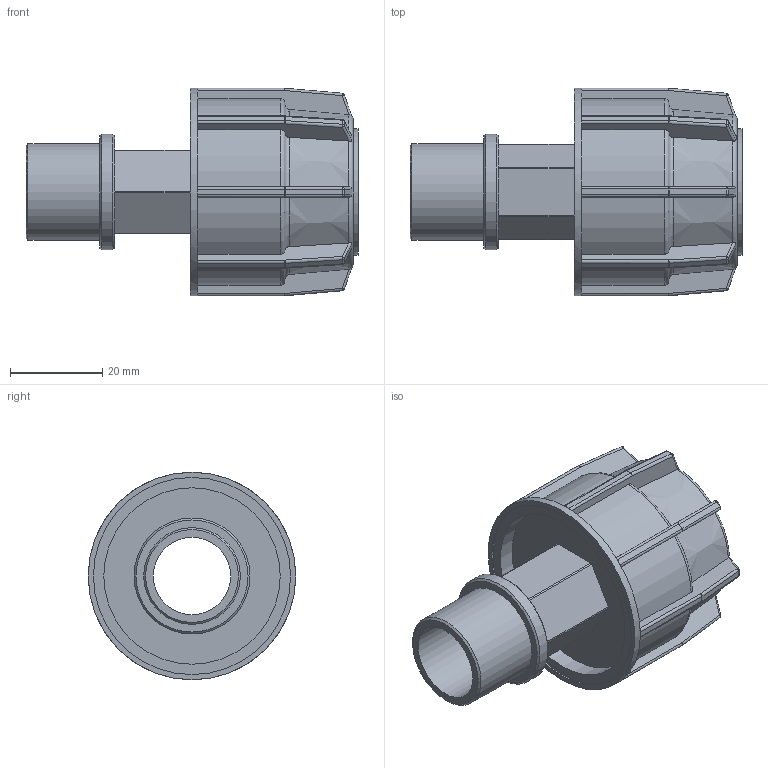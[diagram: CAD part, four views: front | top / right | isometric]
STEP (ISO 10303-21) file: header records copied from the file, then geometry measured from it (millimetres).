
FILE_DESCRIPTION(/* description */ ('PLASSON IRRIFIT ADAPTOR 25-1/2"M'),/* implementation_level */ '2;1');
FILE_NAME(/* name */ 'C:\Dropbox\KIMPROJECTS-Inventor\99-16-3568-Processing\Silver+MF ISRAEL\040207\040207025005.ipt.stp',/* time_stamp */ '2018-04-09T12:59:39+03:00',/* author */ ('KIM'),/* organization */ (''),/* preprocessor_version */ 'ST-DEVELOPER v15.6',/* originating_system */ 'Autodesk Inventor 2015',/* authorisation */ '');
FILE_SCHEMA (('AUTOMOTIVE_DESIGN { 1 0 10303 214 3 1 1 }'));
Length unit declared in the file: millimetre
Products named in the file (1): 040207025005
Bounding box: 72 x 45 x 45 mm (x, y, z)
Volume: 27774.4 mm3; surface area: 16527 mm2
Topology: 1 solids, 1 shells, 283 faces, 668 edges, 388 vertices
Faces by surface type: plane 142, cylinder 81, sphere 32, torus 17, cone 11
Full cylindrical faces by diameter (mm): 16.764 x1, 20.955 x1, 25 x1, 25.146 x1, 27.5 x1, 30 x1, 38.25 x1, 42.75 x1, 45 x1
Entity records: 8330 total; most frequent: CARTESIAN_POINT 2112, DIRECTION 1300, ORIENTED_EDGE 1280, EDGE_CURVE 640, AXIS2_PLACEMENT_3D 512, VERTEX_POINT 380, EDGE_LOOP 306, FACE_OUTER_BOUND 283
